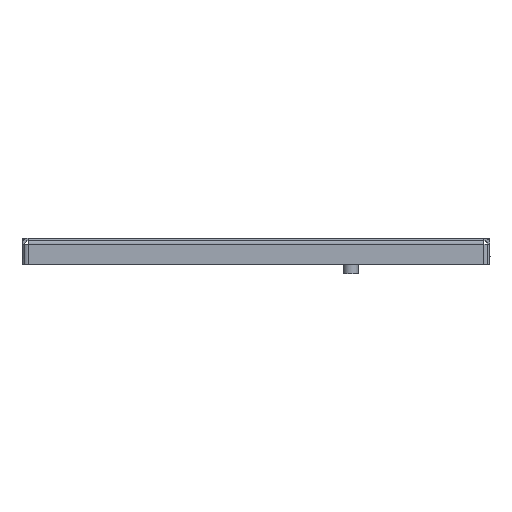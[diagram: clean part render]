
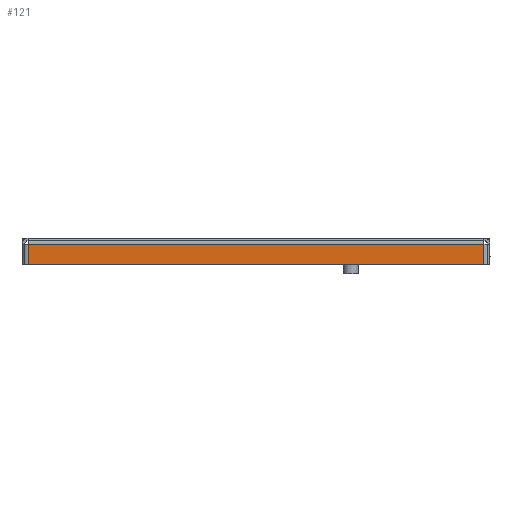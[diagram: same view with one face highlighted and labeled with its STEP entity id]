
A CAD part, left-side view. The second image highlights one B-rep face of the part: STEP entity #121.
In plain terms, the highlighted planar face has unit normal (-1, 0, 0).
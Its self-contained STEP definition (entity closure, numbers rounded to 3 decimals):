
#121=ADVANCED_FACE('',(#1361),#1363,.F.);
#1361=FACE_BOUND('',#1362,.T.);
#1362=EDGE_LOOP('',(#6062,#6063,#6064,#6065));
#1363=PLANE('',#1364);
#1364=AXIS2_PLACEMENT_3D('',#1365,#1366,#1367);
#1365=CARTESIAN_POINT('',(-393.2,0.,0.));
#1366=DIRECTION('',(1.,0.,0.));
#1367=DIRECTION('',(0.,0.,-1.));
#6062=ORIENTED_EDGE('',*,*,#8947,.F.);
#6063=ORIENTED_EDGE('',*,*,#8949,.F.);
#6064=ORIENTED_EDGE('',*,*,#8950,.F.);
#6065=ORIENTED_EDGE('',*,*,#8951,.F.);
#8947=EDGE_CURVE('',#11281,#11274,#11285,.T.);
#8949=EDGE_CURVE('',#11287,#11281,#11288,.T.);
#8950=EDGE_CURVE('',#11289,#11287,#11290,.T.);
#8951=EDGE_CURVE('',#11274,#11289,#11291,.T.);
#11274=VERTEX_POINT('',#15635);
#11281=VERTEX_POINT('',#15655);
#11285=LINE('',#15666,#15667);
#11287=VERTEX_POINT('',#15672);
#11288=LINE('',#15673,#15674);
#11289=VERTEX_POINT('',#15676);
#11290=LINE('',#15677,#15678);
#11291=LINE('',#15680,#15681);
#15635=CARTESIAN_POINT('',(-393.2,-120.3,-3.2));
#15655=CARTESIAN_POINT('',(-393.2,120.3,-3.2));
#15666=CARTESIAN_POINT('',(-393.2,120.3,-3.2));
#15667=VECTOR('',#15668,1.);
#15668=DIRECTION('',(0.,-1.,0.));
#15672=CARTESIAN_POINT('',(-393.2,120.3,-14.));
#15673=CARTESIAN_POINT('',(-393.2,120.3,-14.));
#15674=VECTOR('',#15675,1.);
#15675=DIRECTION('',(0.,0.,1.));
#15676=CARTESIAN_POINT('',(-393.2,-120.3,-14.));
#15677=CARTESIAN_POINT('',(-393.2,-120.3,-14.));
#15678=VECTOR('',#15679,1.);
#15679=DIRECTION('',(0.,1.,0.));
#15680=CARTESIAN_POINT('',(-393.2,-120.3,-3.2));
#15681=VECTOR('',#15682,1.);
#15682=DIRECTION('',(0.,0.,-1.));
